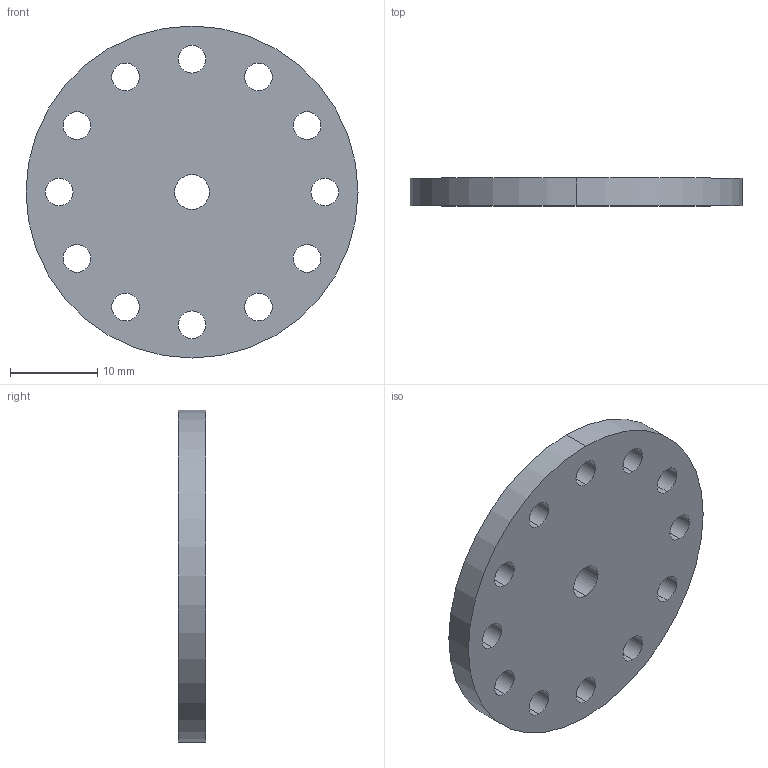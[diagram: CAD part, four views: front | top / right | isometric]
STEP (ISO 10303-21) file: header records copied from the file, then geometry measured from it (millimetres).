
FILE_DESCRIPTION (( 'STEP AP214' ), '1' );
FILE_NAME ('cage gear side.STEP', '2019-10-04T00:04:34', ( 'John' ), ( 'Not Good' ), 'SwSTEP 2.0', 'SolidWorks 2008', '' );
FILE_SCHEMA (( 'AUTOMOTIVE_DESIGN' ));
Length unit declared in the file: inch
Products named in the file (1): cage gear side
Bounding box: 38.1 x 3.17 x 38.1 mm (x, y, z)
Volume: 3278.9 mm3; surface area: 2865.1 mm2
Topology: 1 solids, 1 shells, 30 faces, 84 edges, 56 vertices
Faces by surface type: cylinder 28, plane 2
Entity records: 1109 total; most frequent: DIRECTION 202, CARTESIAN_POINT 171, ORIENTED_EDGE 168, AXIS2_PLACEMENT_3D 87, EDGE_CURVE 84, EDGE_LOOP 56, VERTEX_POINT 56, CIRCLE 56
